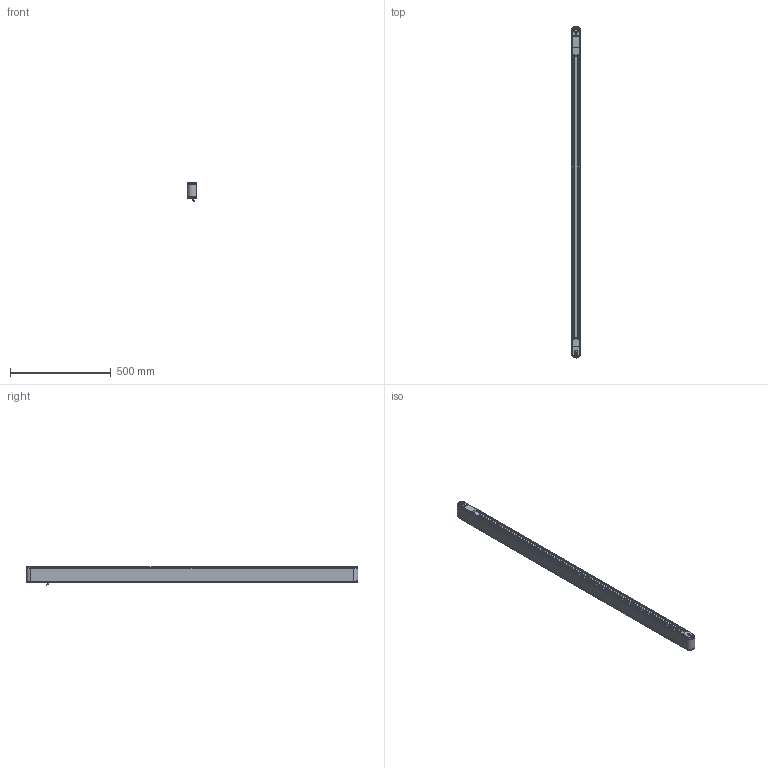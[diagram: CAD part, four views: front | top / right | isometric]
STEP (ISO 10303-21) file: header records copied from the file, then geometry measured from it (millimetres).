
FILE_DESCRIPTION(/* description */ (''),/* implementation_level */ '2;1');
FILE_NAME(/* name */ 'G:\DATEN\CAD\Förderband\Marketing\3D-Modelle (Standard)\FR-40-80\FR-40-80-1600-K.stp',/* time_stamp */ '2019-05-08T08:22:45+02:00',/* author */ ('melanie.ochs'),/* organization */ (''),/* preprocessor_version */ 'ST-DEVELOPER v17',/* originating_system */ 'Autodesk Inventor 2019',/* authorisation */ '');
FILE_SCHEMA (('CONFIG_CONTROL_DESIGN'));
Length unit declared in the file: centimetre
Products named in the file (1): FR-40-80-1600-K
Bounding box: 46.6 x 1646.6 x 92.7 mm (x, y, z)
Volume: 2062570 mm3; surface area: 1373070.2 mm2
Topology: 1 solids, 25 shells, 1035 faces, 2893 edges, 1942 vertices
Faces by surface type: plane 527, cylinder 287, bspline 122, cone 69, torus 30
Full cylindrical faces by diameter (mm): 1 x6, 4 x6, 4.3 x4, 4.64 x2, 4.917 x1, 5 x11, 5.5 x8, 6 x4, 6.773 x1, 8 x4, 8.3 x12, 8.5 x8, 8.773 x1, 10 x1, 11 x1, 12 x3, 15 x4, 20 x2, 25 x2, 28 x4
Entity records: 35969 total; most frequent: CARTESIAN_POINT 8488, ORIENTED_EDGE 5766, DIRECTION 5224, EDGE_CURVE 2883, VERTEX_POINT 1942, AXIS2_PLACEMENT_3D 1822, LINE 1580, VECTOR 1580
